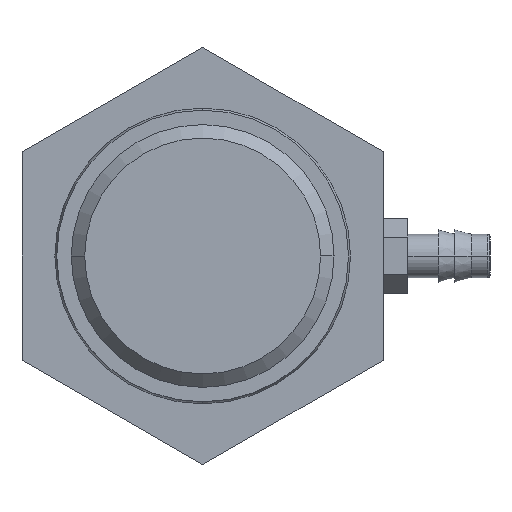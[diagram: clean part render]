
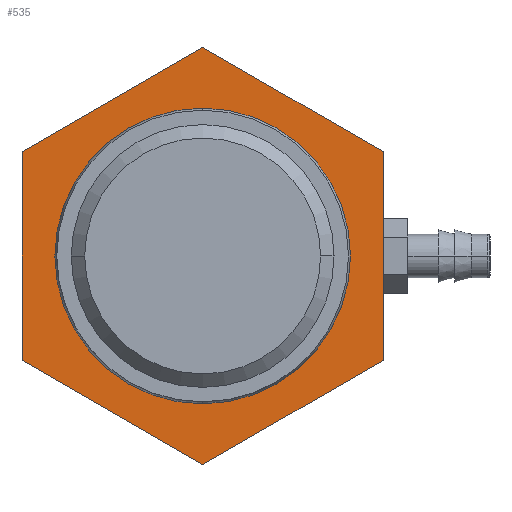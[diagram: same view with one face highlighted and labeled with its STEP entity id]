
A CAD part, left-side view. The second image highlights one B-rep face of the part: STEP entity #535.
In plain terms, the highlighted planar face has unit normal (-1, 0, 0).
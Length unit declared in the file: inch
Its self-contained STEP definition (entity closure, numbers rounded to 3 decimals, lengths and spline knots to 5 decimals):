
#229=DIRECTION('',(0.,0.,-1.));
#230=VECTOR('',#229,0.79386);
#231=CARTESIAN_POINT('',(-2.25,-0.6875,0.39693));
#232=LINE('',#231,#230);
#237=DIRECTION('',(0.,-0.866,-0.5));
#238=VECTOR('',#237,0.79386);
#239=CARTESIAN_POINT('',(-2.25,0.6875,-0.39693));
#240=LINE('',#239,#238);
#241=DIRECTION('',(0.,0.866,-0.5));
#242=VECTOR('',#241,0.79386);
#243=CARTESIAN_POINT('',(-2.25,0.,0.79386));
#244=LINE('',#243,#242);
#245=DIRECTION('',(0.,0.866,0.5));
#246=VECTOR('',#245,0.79386);
#247=CARTESIAN_POINT('',(-2.25,-0.6875,0.39693));
#248=LINE('',#247,#246);
#249=DIRECTION('',(0.,-0.866,0.5));
#250=VECTOR('',#249,0.79386);
#251=CARTESIAN_POINT('',(-2.25,0.,-0.79386));
#252=LINE('',#251,#250);
#253=CARTESIAN_POINT('',(-2.25,0.,0.));
#254=DIRECTION('',(1.,0.,0.));
#255=DIRECTION('',(0.,1.,0.));
#256=AXIS2_PLACEMENT_3D('',#253,#254,#255);
#258=CARTESIAN_POINT('',(-2.25,0.,0.));
#259=DIRECTION('',(1.,0.,0.));
#260=DIRECTION('',(0.,-1.,0.));
#261=AXIS2_PLACEMENT_3D('',#258,#259,#260);
#267=DIRECTION('',(0.,0.,1.));
#268=VECTOR('',#267,0.79386);
#269=CARTESIAN_POINT('',(-2.25,0.6875,-0.39693));
#270=LINE('',#269,#268);
#409=CARTESIAN_POINT('',(-2.25,-0.6875,-0.39693));
#410=VERTEX_POINT('',#409);
#411=CARTESIAN_POINT('',(-2.25,0.,-0.79386));
#412=VERTEX_POINT('',#411);
#415=CARTESIAN_POINT('',(-2.25,-0.6875,0.39693));
#416=VERTEX_POINT('',#415);
#421=CARTESIAN_POINT('',(-2.25,0.,0.79386));
#422=VERTEX_POINT('',#421);
#423=CARTESIAN_POINT('',(-2.25,0.6875,-0.39693));
#424=VERTEX_POINT('',#423);
#425=CARTESIAN_POINT('',(-2.25,0.6875,0.39693));
#426=VERTEX_POINT('',#425);
#427=CARTESIAN_POINT('',(-2.25,-0.475,0.));
#429=VERTEX_POINT('',#427);
#431=CARTESIAN_POINT('',(-2.25,0.475,0.));
#433=VERTEX_POINT('',#431);
#512=CARTESIAN_POINT('',(-2.25,0.,0.));
#513=DIRECTION('',(-1.,0.,0.));
#514=DIRECTION('',(0.,0.,1.));
#515=AXIS2_PLACEMENT_3D('',#512,#513,#514);
#516=PLANE('',#515);
#518=ORIENTED_EDGE('',*,*,#517,.F.);
#520=ORIENTED_EDGE('',*,*,#519,.T.);
#522=ORIENTED_EDGE('',*,*,#521,.F.);
#524=ORIENTED_EDGE('',*,*,#523,.F.);
#525=ORIENTED_EDGE('',*,*,#505,.T.);
#526=ORIENTED_EDGE('',*,*,#472,.F.);
#527=EDGE_LOOP('',(#518,#520,#522,#524,#525,#526));
#528=FACE_OUTER_BOUND('',#527,.F.);
#530=ORIENTED_EDGE('',*,*,#529,.F.);
#532=ORIENTED_EDGE('',*,*,#531,.F.);
#533=EDGE_LOOP('',(#530,#532));
#534=FACE_BOUND('',#533,.F.);
#257=CIRCLE('',#256,0.475);
#262=CIRCLE('',#261,0.475);
#472=EDGE_CURVE('',#412,#410,#252,.T.);
#505=EDGE_CURVE('',#416,#410,#232,.T.);
#517=EDGE_CURVE('',#424,#412,#240,.T.);
#519=EDGE_CURVE('',#424,#426,#270,.T.);
#521=EDGE_CURVE('',#422,#426,#244,.T.);
#523=EDGE_CURVE('',#416,#422,#248,.T.);
#529=EDGE_CURVE('',#433,#429,#257,.T.);
#531=EDGE_CURVE('',#429,#433,#262,.T.);
#535=ADVANCED_FACE('',(#528,#534),#516,.T.);
